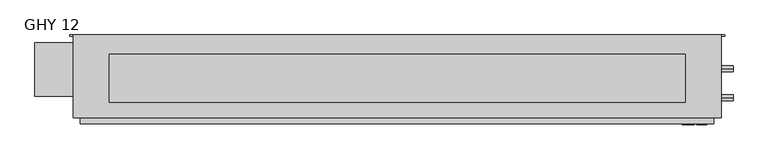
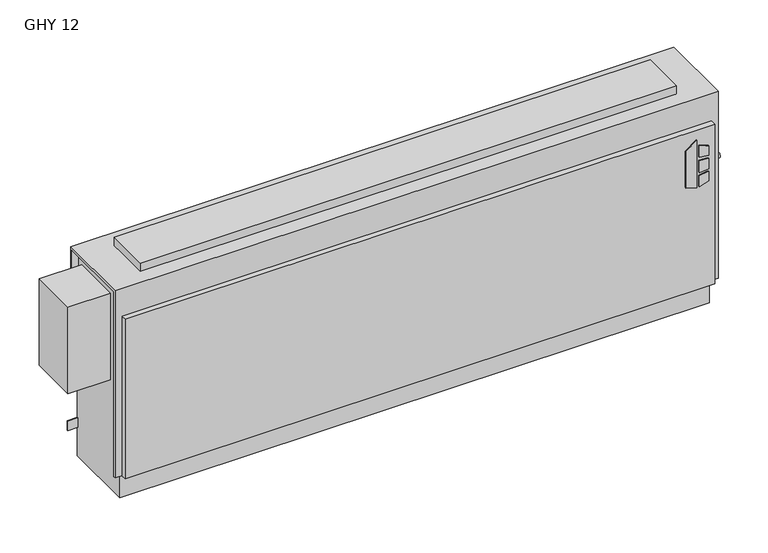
"""IFC4 building model written with IfcOpenShell, lengths in millimetres: proxy geometry, Vertical_Fan_Coil_Unit_-_GHY_-_IEC_-_2-Pipe_TS-FR_RH_2022 : GHY 12."""

from ifc_helpers import new_model, si_unit, point, frame, frame_2d, origin, place, context, project, spatial, polyline, circle_curve, trimmed, segment, composite_curve, outline, extrude, source, transform, mapped, element, save
from ifc_brep_helpers import plane_surface, revolved_surface, advanced_brep


def ghy_12_006c4f98(model_context):
    return source(origin(), model_context, "Body", "SolidModel", [
        extrude(outline(polyline([(391.6086829, 906.5368862), (381.6606126, 938.7102728), (523.831537, 938.7102728), (500.8095309, 906.5368862), (391.6086829, 906.5368862)])), frame((0.0, 6.35, 0.0), z_axis=(0.0, 1.0, 0.0), x_axis=(0.0, 0.0, 1.0)), (0.0, 0.0, 1.0), 3.175),
        extrude(outline(polyline([(470.6079683, 945.4686058), (467.4055757, 971.55), (496.6344168, 971.55), (504.6988318, 945.4686058), (470.6079683, 945.4686058)])), frame((0.0, 6.35, 0.0), z_axis=(0.0, 1.0, 0.0), x_axis=(0.0, 0.0, 1.0)), (0.0, 0.0, 1.0), 3.175),
        extrude(outline(polyline([(418.7444414, 971.55), (415.0789404, 945.4686058), (381.6606126, 945.4686058), (390.2948498, 971.55), (418.7444414, 971.55)])), frame((0.0, 6.35, 0.0), z_axis=(0.0, 1.0, 0.0), x_axis=(0.0, 0.0, 1.0)), (0.0, 0.0, 1.0), 3.175),
        extrude(outline(polyline([(458.0596028, 971.55), (460.3414292, 945.4686058), (424.4038806, 945.4686058), (427.1451456, 971.55), (458.0596028, 971.55)])), frame((0.0, 6.35, 0.0), z_axis=(0.0, 1.0, 0.0), x_axis=(0.0, 0.0, 1.0)), (0.0, 0.0, 1.0), 3.175),
        extrude(outline(polyline([(914.4, 193.675), (914.4, 66.675), (-609.6, 66.675), (-609.6, 193.675), (914.4, 193.675)])), frame((0.0, 0.0, 635.0), z_axis=(0.0, 0.0, 1.0), x_axis=(1.0, 0.0, 0.0)), (0.0, 0.0, 1.0), 25.4),
        extrude(outline(composite_curve([segment(trimmed(circle_curve(frame_2d((77.597, 401.574)), 7.9375), [point((77.597, 393.6365))], [point((77.597, 409.5115))], False, "CARTESIAN"), True, "CONTINUOUS"), segment(trimmed(circle_curve(frame_2d((77.597, 401.574)), 7.9375), [point((77.597, 409.5115))], [point((77.597, 393.6365))], False, "CARTESIAN"), True, "CONTINUOUS")], self_intersect=False)), frame((990.6, 0.0, 0.0), z_axis=(1.0, 0.0, 0.0), x_axis=(0.0, 1.0, 0.0)), (0.0, 0.0, 1.0), 50.8),
        extrude(outline(composite_curve([segment(trimmed(circle_curve(frame_2d((154.559, 540.512)), 7.9375), [point((154.559, 532.5745))], [point((154.559, 548.4495))], False, "CARTESIAN"), True, "CONTINUOUS"), segment(trimmed(circle_curve(frame_2d((154.559, 540.512)), 7.9375), [point((154.559, 548.4495))], [point((154.559, 532.5745))], False, "CARTESIAN"), True, "CONTINUOUS")], self_intersect=False)), frame((990.6, 0.0, 0.0), z_axis=(1.0, 0.0, 0.0), x_axis=(0.0, 1.0, 0.0)), (0.0, 0.0, 1.0), 50.8),
        extrude(outline(polyline([(-806.45, 223.266), (-685.8, 223.266), (-685.8, 81.534), (-806.45, 81.534), (-806.45, 223.266)])), frame((0.0, 0.0, 327.025), z_axis=(0.0, 0.0, 1.0), x_axis=(1.0, 0.0, 0.0)), (0.0, 0.0, 1.0), 260.35),
        advanced_brep(
        [(1009.65, 244.475, 635.0), (-704.85, 244.475, 635.0), (-704.85, 25.4, 635.0), (1009.65, 25.4, 635.0), (-685.8, 244.475, 0.0), (990.6, 244.475, 0.0), (990.6, 34.925, 0.0), (-685.8, 34.925, 0.0), (1009.65, 244.475, 558.8), (990.6, 244.475, 558.8), (990.6, 244.475, 414.3375), (1019.175, 244.475, 414.3375), (1019.175, 244.475, 385.7625), (990.6, 244.475, 385.7625), (990.6, 244.475, 287.3375), (1019.175, 244.475, 287.3375), (1019.175, 244.475, 258.7625), (990.6, 244.475, 258.7625), (990.6, 244.475, 141.2875), (1019.175, 244.475, 141.2875), (1019.175, 244.475, 112.7125), (990.6, 244.475, 112.7125), (-685.8, 244.475, 87.3125), (-714.375, 244.475, 87.3125), (-714.375, 244.475, 115.8875), (-685.8, 244.475, 115.8875), (-685.8, 244.475, 258.7625), (-714.375, 244.475, 258.7625), (-714.375, 244.475, 287.3375), (-685.8, 244.475, 287.3375), (-685.8, 244.475, 385.7625), (-714.375, 244.475, 385.7625), (-714.375, 244.475, 414.3375), (-685.8, 244.475, 414.3375), (-685.8, 244.475, 558.8), (-704.85, 244.475, 558.8), (1008.8626, 244.475, 127.0), (997.7374, 244.475, 127.0), (1008.8626, 244.475, 273.05), (997.7374, 244.475, 273.05), (-692.9374, 244.475, 273.05), (-704.0626, 244.475, 273.05), (1008.8626, 244.475, 400.05), (997.7374, 244.475, 400.05), (-692.9374, 244.475, 400.05), (-704.0626, 244.475, 400.05), (-704.85, 238.125, 558.8), (-704.85, 238.125, 628.65), (-704.85, 31.75, 628.65), (-704.85, 31.75, 73.025), (-704.85, 25.4, 73.025), (990.6, 9.525, 552.45), (-685.8, 9.525, 552.45), (-685.8, 9.525, 73.025), (990.6, 9.525, 73.025), (1009.65, 25.4, 73.025), (1009.65, 31.75, 73.025), (1009.65, 31.75, 628.65), (1009.65, 238.125, 628.65), (1009.65, 238.125, 558.8), (-685.8, 25.4, 73.025), (-685.8, 25.4, 552.45), (990.6, 25.4, 552.45), (990.6, 25.4, 73.025), (-685.8, 31.75, 73.025), (-685.8, 34.925, 73.025), (990.6, 34.925, 73.025), (990.6, 31.75, 73.025), (990.6, 241.3, 112.7125), (990.6, 241.3, 141.2875), (990.6, 241.3, 258.7625), (990.6, 241.3, 287.3375), (990.6, 241.3, 385.7625), (990.6, 241.3, 414.3375), (990.6, 238.125, 558.8), (990.6, 238.125, 628.65), (990.6, 31.75, 628.65), (-685.8, 31.75, 628.65), (-685.8, 238.125, 628.65), (-685.8, 238.125, 558.8), (-685.8, 241.3, 414.3375), (-685.8, 241.3, 385.7625), (-685.8, 241.3, 287.3375), (-685.8, 241.3, 258.7625), (-685.8, 241.3, 115.8875), (-685.8, 241.3, 87.3125), (1019.175, 241.3, 112.7125), (1019.175, 241.3, 141.2875), (997.7374, 241.3, 127.0), (1008.8626, 241.3, 127.0), (1019.175, 241.3, 258.7625), (1019.175, 241.3, 287.3375), (997.7374, 241.3, 273.05), (1008.8626, 241.3, 273.05), (1019.175, 241.3, 385.7625), (1019.175, 241.3, 414.3375), (997.7374, 241.3, 400.05), (1008.8626, 241.3, 400.05), (-714.375, 241.3, 115.8875), (-714.375, 241.3, 87.3125), (-714.375, 241.3, 287.3375), (-714.375, 241.3, 258.7625), (-704.0626, 241.3, 273.05), (-692.9374, 241.3, 273.05), (-714.375, 241.3, 414.3375), (-714.375, 241.3, 385.7625), (-704.0626, 241.3, 400.05), (-692.9374, 241.3, 400.05)],
        [
            (0, 1),
            (1, 2),
            (2, 3),
            (3, 0),
            (4, 5),
            (5, 6),
            (6, 7),
            (7, 4),
            (0, 8),
            (8, 9),
            (9, 10),
            (10, 11),
            (11, 12),
            (12, 13),
            (13, 14),
            (14, 15),
            (15, 16),
            (16, 17),
            (17, 18),
            (18, 19),
            (19, 20),
            (20, 21),
            (21, 5),
            (4, 22),
            (22, 23),
            (23, 24),
            (24, 25),
            (25, 26),
            (26, 27),
            (27, 28),
            (28, 29),
            (29, 30),
            (30, 31),
            (31, 32),
            (32, 33),
            (33, 34),
            (34, 35),
            (35, 1),
            (36, 37, circle_curve(frame((1003.3, 244.475, 127.0), z_axis=(0.0, -1.0, 0.0), x_axis=(-1.0, 0.0, 0.0)), 5.5626)),
            (37, 36, circle_curve(frame((1003.3, 244.475, 127.0), z_axis=(0.0, -1.0, 0.0), x_axis=(-1.0, 0.0, 0.0)), 5.5626)),
            (38, 39, circle_curve(frame((1003.3, 244.475, 273.05), z_axis=(0.0, -1.0, 0.0), x_axis=(-1.0, 0.0, 0.0)), 5.5626)),
            (39, 38, circle_curve(frame((1003.3, 244.475, 273.05), z_axis=(0.0, -1.0, 0.0), x_axis=(-1.0, 0.0, 0.0)), 5.5626)),
            (40, 41, circle_curve(frame((-698.5, 244.475, 273.05), z_axis=(0.0, -1.0, 0.0), x_axis=(-1.0, 0.0, 0.0)), 5.5626)),
            (41, 40, circle_curve(frame((-698.5, 244.475, 273.05), z_axis=(0.0, -1.0, 0.0), x_axis=(-1.0, 0.0, 0.0)), 5.5626)),
            (42, 43, circle_curve(frame((1003.3, 244.475, 400.05), z_axis=(0.0, -1.0, 0.0), x_axis=(-1.0, 0.0, 0.0)), 5.5626)),
            (43, 42, circle_curve(frame((1003.3, 244.475, 400.05), z_axis=(0.0, -1.0, 0.0), x_axis=(-1.0, 0.0, 0.0)), 5.5626)),
            (44, 45, circle_curve(frame((-698.5, 244.475, 400.05), z_axis=(0.0, -1.0, 0.0), x_axis=(-1.0, 0.0, 0.0)), 5.5626)),
            (45, 44, circle_curve(frame((-698.5, 244.475, 400.05), z_axis=(0.0, -1.0, 0.0), x_axis=(-1.0, 0.0, 0.0)), 5.5626)),
            (35, 46),
            (46, 47),
            (47, 48),
            (48, 49),
            (49, 50),
            (50, 2),
            (51, 52),
            (52, 53),
            (53, 54),
            (54, 51),
            (3, 55),
            (55, 56),
            (56, 57),
            (57, 58),
            (58, 59),
            (59, 8),
            (50, 60),
            (60, 61),
            (61, 62),
            (62, 63),
            (63, 55),
            (51, 62),
            (61, 52),
            (53, 60),
            (49, 64),
            (64, 65),
            (65, 66),
            (66, 67),
            (67, 56),
            (63, 54),
            (6, 66),
            (65, 7),
            (21, 68),
            (68, 69),
            (69, 18),
            (17, 70),
            (70, 71),
            (71, 14),
            (13, 72),
            (72, 73),
            (73, 10),
            (9, 74),
            (74, 75),
            (75, 76),
            (76, 67),
            (64, 77),
            (77, 78),
            (78, 79),
            (79, 34),
            (33, 80),
            (80, 81),
            (81, 30),
            (29, 82),
            (82, 83),
            (83, 26),
            (25, 84),
            (84, 85),
            (85, 22),
            (74, 59),
            (58, 75),
            (76, 57),
            (48, 77),
            (79, 46),
            (78, 47),
            (68, 86),
            (86, 87),
            (87, 69),
            (88, 89, circle_curve(frame((1003.3, 241.3, 127.0), z_axis=(0.0, 1.0, 0.0), x_axis=(-1.0, 0.0, 0.0)), 5.5626)),
            (89, 88, circle_curve(frame((1003.3, 241.3, 127.0), z_axis=(0.0, 1.0, 0.0), x_axis=(-1.0, 0.0, 0.0)), 5.5626)),
            (90, 91),
            (91, 71),
            (70, 90),
            (92, 93, circle_curve(frame((1003.3, 241.3, 273.05), z_axis=(0.0, 1.0, 0.0), x_axis=(-1.0, 0.0, 0.0)), 5.5626)),
            (93, 92, circle_curve(frame((1003.3, 241.3, 273.05), z_axis=(0.0, 1.0, 0.0), x_axis=(-1.0, 0.0, 0.0)), 5.5626)),
            (94, 95),
            (95, 73),
            (72, 94),
            (96, 97, circle_curve(frame((1003.3, 241.3, 400.05), z_axis=(0.0, 1.0, 0.0), x_axis=(-1.0, 0.0, 0.0)), 5.5626)),
            (97, 96, circle_curve(frame((1003.3, 241.3, 400.05), z_axis=(0.0, 1.0, 0.0), x_axis=(-1.0, 0.0, 0.0)), 5.5626)),
            (98, 99),
            (99, 85),
            (84, 98),
            (82, 100),
            (100, 101),
            (101, 83),
            (102, 103, circle_curve(frame((-698.5, 241.3, 273.05), z_axis=(0.0, 1.0, 0.0), x_axis=(-1.0, 0.0, 0.0)), 5.5626)),
            (103, 102, circle_curve(frame((-698.5, 241.3, 273.05), z_axis=(0.0, 1.0, 0.0), x_axis=(-1.0, 0.0, 0.0)), 5.5626)),
            (104, 105),
            (105, 81),
            (80, 104),
            (106, 107, circle_curve(frame((-698.5, 241.3, 400.05), z_axis=(0.0, 1.0, 0.0), x_axis=(-1.0, 0.0, 0.0)), 5.5626)),
            (107, 106, circle_curve(frame((-698.5, 241.3, 400.05), z_axis=(0.0, 1.0, 0.0), x_axis=(-1.0, 0.0, 0.0)), 5.5626)),
            (87, 19),
            (86, 20),
            (16, 90),
            (91, 15),
            (12, 94),
            (95, 11),
            (24, 98),
            (99, 23),
            (101, 27),
            (100, 28),
            (32, 104),
            (105, 31),
            (88, 37),
            (36, 89),
            (92, 39),
            (38, 93),
            (102, 41),
            (40, 103),
            (96, 43),
            (42, 97),
            (106, 45),
            (44, 107),
        ],
        [
            plane_surface(frame((-704.85, 244.475, 635.0), z_axis=(0.0, 0.0, 1.0), x_axis=(-1.0, 0.0, 0.0))),
            plane_surface(frame((-704.85, 244.475, 0.0), z_axis=(0.0, 0.0, -1.0), x_axis=(1.0, 0.0, 0.0))),
            plane_surface(frame((1009.65, 244.475, 635.0), z_axis=(0.0, 1.0, 0.0), x_axis=(0.0, 0.0, -1.0))),
            plane_surface(frame((-704.85, 244.475, 635.0), z_axis=(-1.0, 0.0, 0.0), x_axis=(0.0, 0.0, -1.0))),
            plane_surface(frame((-704.85, 9.525, 635.0), z_axis=(0.0, -1.0, 0.0), x_axis=(0.0, 0.0, -1.0))),
            plane_surface(frame((1009.65, 9.525, 635.0), z_axis=(1.0, 0.0, 0.0), x_axis=(0.0, 0.0, -1.0))),
            plane_surface(frame((-1263.65, 25.4, 635.0), z_axis=(0.0, -1.0, 0.0), x_axis=(1.0, 0.0, 0.0))),
            plane_surface(frame((-1263.65, 25.4, 552.45), z_axis=(0.0, 0.0, 1.0), x_axis=(1.0, 0.0, 0.0))),
            plane_surface(frame((-704.85, 9.525, 73.025), z_axis=(0.0, 0.0, -1.0), x_axis=(1.0, 0.0, 0.0))),
            plane_surface(frame((-704.85, 34.925, 73.025), z_axis=(0.0, -1.0, 0.0), x_axis=(1.0, 0.0, 0.0))),
            plane_surface(frame((990.6, 25.4, 73.025), z_axis=(1.0, 0.0, 0.0), x_axis=(0.0, -1.0, 0.0))),
            plane_surface(frame((-685.8, 25.4, 552.45), z_axis=(-1.0, 0.0, 0.0), x_axis=(0.0, -1.0, 0.0))),
            plane_surface(frame((990.6, 244.475, 0.0), z_axis=(1.0, 0.0, 0.0), x_axis=(0.0, -1.0, 0.0))),
            plane_surface(frame((-685.8, 244.475, 73.025), z_axis=(-1.0, 0.0, 0.0), x_axis=(0.0, -1.0, 0.0))),
            plane_surface(frame((990.6, 238.125, 628.65), z_axis=(0.0, -1.0, 0.0), x_axis=(1.0, 0.0, 0.0))),
            plane_surface(frame((990.6, 238.125, 558.8), z_axis=(0.0, 0.0, -1.0), x_axis=(1.0, 0.0, 0.0))),
            plane_surface(frame((990.6, 31.75, 73.025), z_axis=(0.0, 1.0, 0.0), x_axis=(1.0, 0.0, 0.0))),
            plane_surface(frame((990.6, 31.75, 628.65), z_axis=(0.0, 0.0, -1.0), x_axis=(1.0, 0.0, 0.0))),
            plane_surface(frame((-685.8, 31.75, 628.65), z_axis=(0.0, 1.0, 0.0), x_axis=(-1.0, 0.0, 0.0))),
            plane_surface(frame((-685.8, 244.475, 558.8), z_axis=(0.0, 0.0, -1.0), x_axis=(-1.0, 0.0, 0.0))),
            plane_surface(frame((-685.8, 238.125, 558.8), z_axis=(0.0, -1.0, 0.0), x_axis=(-1.0, 0.0, 0.0))),
            plane_surface(frame((-685.8, 238.125, 628.65), z_axis=(0.0, 0.0, -1.0), x_axis=(-1.0, 0.0, 0.0))),
            plane_surface(frame((1019.175, 241.3, 141.2875), z_axis=(0.0, -1.0, 0.0), x_axis=(-1.0, 0.0, 0.0))),
            plane_surface(frame((990.6, 244.475, 141.2875), z_axis=(0.0, 0.0, 1.0), x_axis=(0.0, -1.0, 0.0))),
            plane_surface(frame((1019.175, 244.475, 141.2875), z_axis=(1.0, 0.0, 0.0), x_axis=(0.0, -1.0, 0.0))),
            plane_surface(frame((1019.175, 244.475, 112.7125), z_axis=(0.0, 0.0, -1.0), x_axis=(0.0, -1.0, 0.0))),
            plane_surface(frame((1019.175, 244.475, 258.7625), z_axis=(0.0, 0.0, -1.0), x_axis=(0.0, -1.0, 0.0))),
            plane_surface(frame((990.6, 244.475, 287.3375), z_axis=(0.0, 0.0, 1.0), x_axis=(0.0, -1.0, 0.0))),
            plane_surface(frame((1019.175, 244.475, 287.3375), z_axis=(1.0, 0.0, 0.0), x_axis=(0.0, -1.0, 0.0))),
            plane_surface(frame((1019.175, 244.475, 385.7625), z_axis=(0.0, 0.0, -1.0), x_axis=(0.0, -1.0, 0.0))),
            plane_surface(frame((990.6, 244.475, 414.3375), z_axis=(0.0, 0.0, 1.0), x_axis=(0.0, -1.0, 0.0))),
            plane_surface(frame((1019.175, 244.475, 414.3375), z_axis=(1.0, 0.0, 0.0), x_axis=(0.0, -1.0, 0.0))),
            plane_surface(frame((-714.375, 244.475, 115.8875), z_axis=(0.0, 0.0, 1.0), x_axis=(0.0, -1.0, 0.0))),
            plane_surface(frame((-685.8, 244.475, 87.3125), z_axis=(0.0, 0.0, -1.0), x_axis=(0.0, -1.0, 0.0))),
            plane_surface(frame((-714.375, 244.475, 87.3125), z_axis=(-1.0, 0.0, 0.0), x_axis=(0.0, -1.0, 0.0))),
            plane_surface(frame((-685.8, 244.475, 258.7625), z_axis=(0.0, 0.0, -1.0), x_axis=(0.0, -1.0, 0.0))),
            plane_surface(frame((-714.375, 244.475, 258.7625), z_axis=(-1.0, 0.0, 0.0), x_axis=(0.0, -1.0, 0.0))),
            plane_surface(frame((-714.375, 244.475, 287.3375), z_axis=(0.0, 0.0, 1.0), x_axis=(0.0, -1.0, 0.0))),
            plane_surface(frame((-714.375, 244.475, 414.3375), z_axis=(0.0, 0.0, 1.0), x_axis=(0.0, -1.0, 0.0))),
            plane_surface(frame((-685.8, 244.475, 385.7625), z_axis=(0.0, 0.0, -1.0), x_axis=(0.0, -1.0, 0.0))),
            plane_surface(frame((-714.375, 244.475, 385.7625), z_axis=(-1.0, 0.0, 0.0), x_axis=(0.0, -1.0, 0.0))),
            revolved_surface(polyline([(997.7374, 241.3, 127.0), (997.7374, 244.475, 127.0)]), (1003.3, 244.475, 127.0), (0.0, -1.0, 0.0)),
            revolved_surface(polyline([(997.7374, 241.3, 273.05), (997.7374, 244.475, 273.05)]), (1003.3, 244.475, 273.05), (0.0, -1.0, 0.0)),
            revolved_surface(polyline([(-704.0626, 241.3, 273.05), (-704.0626, 244.475, 273.05)]), (-698.5, 244.475, 273.05), (0.0, -1.0, 0.0)),
            revolved_surface(polyline([(997.7374, 241.3, 400.05), (997.7374, 244.475, 400.05)]), (1003.3, 244.475, 400.05), (0.0, -1.0, 0.0)),
            revolved_surface(polyline([(-704.0626, 241.3, 400.05), (-704.0626, 244.475, 400.05)]), (-698.5, 244.475, 400.05), (0.0, -1.0, 0.0)),
        ],
        [
            (0, [[1, 2, 3, 4]]),
            (1, [[5, 6, 7, 8]]),
            (2, [[-1, 9, 10, 11, 12, 13, 14, 15, 16, 17, 18, 19, 20, 21, 22, 23, -5, 24, 25, 26, 27, 28, 29, 30, 31, 32, 33, 34, 35, 36, 37, 38], [39, 40], [41, 42], [43, 44], [45, 46], [47, 48]]),
            (3, [[-2, -38, 49, 50, 51, 52, 53, 54]]),
            (4, [[55, 56, 57, 58]]),
            (5, [[-4, 59, 60, 61, 62, 63, 64, -9]]),
            (6, [[-3, -54, 65, 66, 67, 68, 69, -59]]),
            (7, [[-55, 70, -67, 71]]),
            (8, [[-57, 72, -65, -53, 73, 74, 75, 76, 77, -60, -69, 78]]),
            (9, [[-7, 79, -75, 80]]),
            (10, [[-68, -70, -58, -78]]),
            (11, [[-66, -72, -56, -71]]),
            (12, [[-6, -23, 81, 82, 83, -19, 84, 85, 86, -15, 87, 88, 89, -11, 90, 91, 92, 93, -76, -79]]),
            (13, [[-8, -80, -74, 94, 95, 96, 97, -36, 98, 99, 100, -32, 101, 102, 103, -28, 104, 105, 106, -24]]),
            (14, [[-91, 107, -63, 108]]),
            (15, [[-90, -10, -64, -107]]),
            (16, [[-93, 109, -61, -77]]),
            (17, [[-92, -108, -62, -109]]),
            (18, [[-94, -73, -52, 110]]),
            (19, [[-97, 111, -49, -37]]),
            (20, [[-96, 112, -50, -111]]),
            (21, [[-95, -110, -51, -112]]),
            (22, [[113, 114, 115, -82], [116, 117]]),
            (22, [[118, 119, -85, 120], [121, 122]]),
            (22, [[123, 124, -88, 125], [126, 127]]),
            (22, [[128, 129, -105, 130]]),
            (22, [[131, 132, 133, -102], [134, 135]]),
            (22, [[136, 137, -99, 138], [139, 140]]),
            (23, [[-115, 141, -20, -83]]),
            (24, [[-114, 142, -21, -141]]),
            (25, [[-113, -81, -22, -142]]),
            (26, [[-120, -84, -18, 143]]),
            (27, [[-119, 144, -16, -86]]),
            (28, [[-118, -143, -17, -144]]),
            (29, [[-125, -87, -14, 145]]),
            (30, [[-124, 146, -12, -89]]),
            (31, [[-123, -145, -13, -146]]),
            (32, [[-130, -104, -27, 147]]),
            (33, [[-129, 148, -25, -106]]),
            (34, [[-128, -147, -26, -148]]),
            (35, [[-133, 149, -29, -103]]),
            (36, [[-132, 150, -30, -149]]),
            (37, [[-131, -101, -31, -150]]),
            (38, [[-138, -98, -35, 151]]),
            (39, [[-137, 152, -33, -100]]),
            (40, [[-136, -151, -34, -152]]),
            (41, [[153, -39, 154, -116]]),
            (41, [[-153, -117, -154, -40]]),
            (42, [[155, -41, 156, -121]]),
            (42, [[-155, -122, -156, -42]]),
            (43, [[157, -43, 158, -134]]),
            (43, [[-157, -135, -158, -44]]),
            (44, [[159, -45, 160, -126]]),
            (44, [[-159, -127, -160, -46]]),
            (45, [[161, -47, 162, -139]]),
            (45, [[-161, -140, -162, -48]]),
        ],
    ),
    ])


if __name__ == "__main__":
    model = new_model("IFC4")
    model_context = context("Model", 3, world=origin())
    ifc_project = project(units=[si_unit("LENGTHUNIT", "METRE", prefix="MILLI")], contexts=[model_context])
    site = spatial("IfcSite", under=ifc_project)
    building = spatial("IfcBuilding", under=site)
    placement = place(None, origin())
    ghy_12_shape = ghy_12_006c4f98(model_context)
    element("IfcBuildingElementProxy", 1, Name="Vertical_Fan_Coil_Unit_-_GHY_-_IEC_-_2-Pipe_TS-FR_RH_2022 : GHY 12", ObjectType="Vertical_Fan_Coil_Unit_-_GHY_-_IEC_-_2-Pipe_TS-FR_RH_2022 : GHY 12", at=placement, inside=building, context=model_context, shape_type="MappedRepresentation", body=[
        mapped(ghy_12_shape, transform((0.0, 0.0, 0.0), x_axis=(1.0, 0.0, 0.0), y_axis=(0.0, 1.0, 0.0), z_axis=(0.0, 0.0, 1.0))),
    ])
    save(model, "model.ifc")
